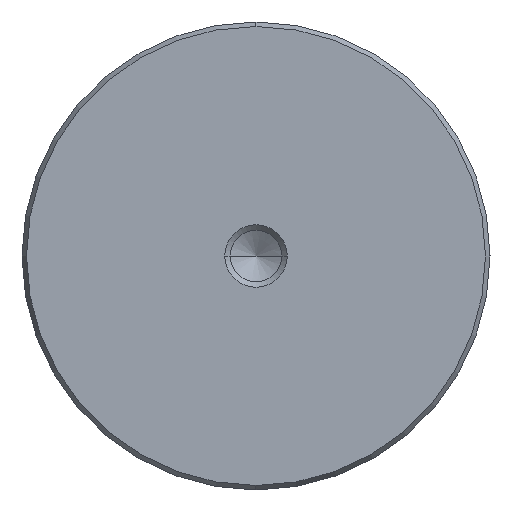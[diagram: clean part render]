
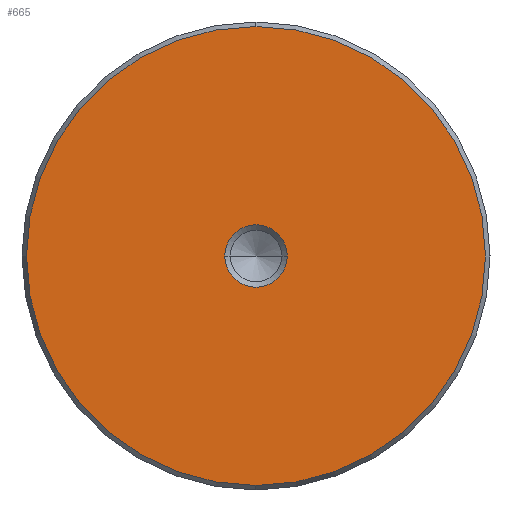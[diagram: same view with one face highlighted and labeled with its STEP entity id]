
A CAD part, left-side view. The second image highlights one B-rep face of the part: STEP entity #665.
In plain terms, the highlighted planar face has unit normal (-1, 0, 0).
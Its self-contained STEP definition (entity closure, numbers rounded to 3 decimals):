
#579=CARTESIAN_POINT('Vertex',(0.,0.,-29.423)) ;
#582=CARTESIAN_POINT('Axis2P3D Location',(0.,0.,0.)) ;
#586=CARTESIAN_POINT('Vertex',(0.,29.423,0.)) ;
#589=CARTESIAN_POINT('Axis2P3D Location',(0.,0.,0.)) ;
#593=CARTESIAN_POINT('Vertex',(0.,0.,29.423)) ;
#615=CARTESIAN_POINT('Axis2P3D Location',(0.,0.,0.)) ;
#619=CARTESIAN_POINT('Vertex',(0.,-29.423,0.)) ;
#622=CARTESIAN_POINT('Axis2P3D Location',(0.,0.,0.)) ;
#636=CARTESIAN_POINT('Axis2P3D Location',(0.,0.,0.)) ;
#647=CARTESIAN_POINT('Axis2P3D Location',(0.,0.,0.)) ;
#651=CARTESIAN_POINT('Vertex',(0.,4.,0.)) ;
#653=CARTESIAN_POINT('Vertex',(0.,-4.,0.)) ;
#656=CARTESIAN_POINT('Axis2P3D Location',(0.,0.,0.)) ;
#583=DIRECTION('Axis2P3D Direction',(1.,0.,-0.)) ;
#590=DIRECTION('Axis2P3D Direction',(1.,0.,-0.)) ;
#616=DIRECTION('Axis2P3D Direction',(1.,0.,-0.)) ;
#623=DIRECTION('Axis2P3D Direction',(1.,0.,-0.)) ;
#637=DIRECTION('Axis2P3D Direction',(1.,0.,-0.)) ;
#638=DIRECTION('Axis2P3D XDirection',(-0.,0.,-1.)) ;
#648=DIRECTION('Axis2P3D Direction',(1.,0.,-0.)) ;
#657=DIRECTION('Axis2P3D Direction',(1.,0.,-0.)) ;
#584=AXIS2_PLACEMENT_3D('Circle Axis2P3D',#582,#583,$) ;
#591=AXIS2_PLACEMENT_3D('Circle Axis2P3D',#589,#590,$) ;
#617=AXIS2_PLACEMENT_3D('Circle Axis2P3D',#615,#616,$) ;
#624=AXIS2_PLACEMENT_3D('Circle Axis2P3D',#622,#623,$) ;
#639=AXIS2_PLACEMENT_3D('Plane Axis2P3D',#636,#637,#638) ;
#649=AXIS2_PLACEMENT_3D('Circle Axis2P3D',#647,#648,$) ;
#658=AXIS2_PLACEMENT_3D('Circle Axis2P3D',#656,#657,$) ;
#642=ORIENTED_EDGE('',*,*,#588,.F.) ;
#643=ORIENTED_EDGE('',*,*,#626,.F.) ;
#644=ORIENTED_EDGE('',*,*,#621,.F.) ;
#645=ORIENTED_EDGE('',*,*,#595,.F.) ;
#662=ORIENTED_EDGE('',*,*,#655,.T.) ;
#663=ORIENTED_EDGE('',*,*,#660,.T.) ;
#664=FACE_BOUND('',#661,.T.) ;
#665=ADVANCED_FACE('720-60x400',(#646,#664),#640,.F.) ;
#585=CIRCLE('generated circle',#584,29.423) ;
#592=CIRCLE('generated circle',#591,29.423) ;
#618=CIRCLE('generated circle',#617,29.423) ;
#625=CIRCLE('generated circle',#624,29.423) ;
#650=CIRCLE('generated circle',#649,4.) ;
#659=CIRCLE('generated circle',#658,4.) ;
#588=EDGE_CURVE('',#580,#587,#585,.T.) ;
#595=EDGE_CURVE('',#587,#594,#592,.T.) ;
#621=EDGE_CURVE('',#594,#620,#618,.T.) ;
#626=EDGE_CURVE('',#620,#580,#625,.T.) ;
#655=EDGE_CURVE('',#652,#654,#650,.T.) ;
#660=EDGE_CURVE('',#654,#652,#659,.T.) ;
#641=EDGE_LOOP('',(#642,#643,#644,#645)) ;
#661=EDGE_LOOP('',(#662,#663)) ;
#646=FACE_OUTER_BOUND('',#641,.T.) ;
#640=PLANE('Plane',#639) ;
#580=VERTEX_POINT('',#579) ;
#587=VERTEX_POINT('',#586) ;
#594=VERTEX_POINT('',#593) ;
#620=VERTEX_POINT('',#619) ;
#652=VERTEX_POINT('',#651) ;
#654=VERTEX_POINT('',#653) ;
